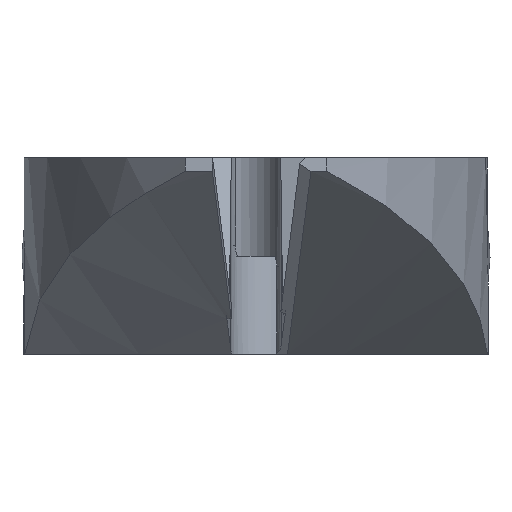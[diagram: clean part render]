
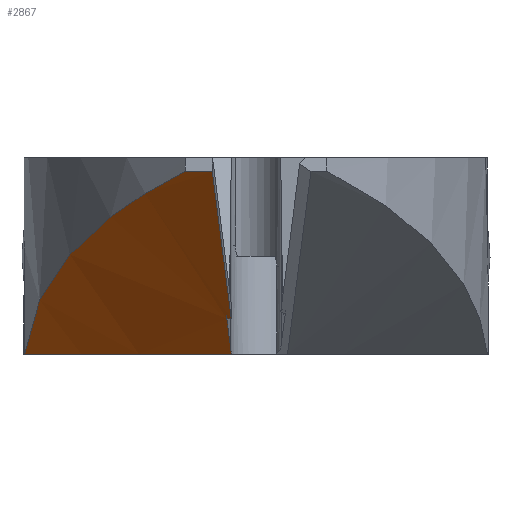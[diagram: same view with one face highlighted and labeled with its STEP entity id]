
A CAD part, left-side view. The second image highlights one B-rep face of the part: STEP entity #2867.
In plain terms, the highlighted cylindrical face has radius 75 mm (diameter 150 mm), a partial arc.
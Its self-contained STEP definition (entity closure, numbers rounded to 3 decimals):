
#2 = CARTESIAN_POINT ( 'NONE',  ( -12.055, 6.605, 0. ) ) ;
#16 = CARTESIAN_POINT ( 'NONE',  ( -15.309, 0.133, 1.622 ) ) ;
#127 = CARTESIAN_POINT ( 'NONE',  ( -12.5, 0.182, 0. ) ) ;
#131 = EDGE_CURVE ( 'NONE', #3823, #1383, #4644, .T. ) ;
#148 = CARTESIAN_POINT ( 'NONE',  ( -12.69, 9.601, 0.822 ) ) ;
#168 = ORIENTED_EDGE ( 'NONE', *, *, #1207, .T. ) ;
#170 = CARTESIAN_POINT ( 'NONE',  ( -11.216, 9.792, 0. ) ) ;
#177 = EDGE_CURVE ( 'NONE', #2996, #3823, #2653, .T. ) ;
#393 = B_SPLINE_CURVE_WITH_KNOTS ( 'NONE', 3,
 ( #170, #148, #3077, #4657, #2445, #2726, #3462, #3171, #3155, #4638 ),
 .UNSPECIFIED., .F., .F.,
 ( 4, 2, 2, 2, 4 ),
 ( 0., 0.005, 0.01, 0.015, 0.02 ),
 .UNSPECIFIED. ) ;
#402 = CARTESIAN_POINT ( 'NONE',  ( -15.309, 0.2, 1.622 ) ) ;
#661 = ORIENTED_EDGE ( 'NONE', *, *, #177, .T. ) ;
#683 = ORIENTED_EDGE ( 'NONE', *, *, #702, .F. ) ;
#702 = EDGE_CURVE ( 'NONE', #3372, #4685, #4104, .T. ) ;
#770 = CARTESIAN_POINT ( 'NONE',  ( -15.309, 0., 1.622 ) ) ;
#931 = EDGE_CURVE ( 'NONE', #2794, #2734, #393, .T. ) ;
#969 = DIRECTION ( 'NONE',  ( -0.866, 0., 0.5 ) ) ;
#984 = CARTESIAN_POINT ( 'NONE',  ( -12.598, 0.194, 0.057 ) ) ;
#1113 = CARTESIAN_POINT ( 'NONE',  ( -27., 0.416, 8.372 ) ) ;
#1187 = CYLINDRICAL_SURFACE ( 'NONE', #2423, 75. ) ;
#1203 = CARTESIAN_POINT ( 'NONE',  ( -15.309, 0.2, 1.622 ) ) ;
#1207 = EDGE_CURVE ( 'NONE', #1383, #2734, #3075, .T. ) ;
#1282 = VECTOR ( 'NONE', #969, 1000. ) ;
#1383 = VERTEX_POINT ( 'NONE', #1545 ) ;
#1495 = CARTESIAN_POINT ( 'NONE',  ( -19.271, 0., 3.909 ) ) ;
#1545 = CARTESIAN_POINT ( 'NONE',  ( -27., 0., 8.372 ) ) ;
#1709 = CARTESIAN_POINT ( 'NONE',  ( -19.271, 0.2, 3.91 ) ) ;
#1803 = DIRECTION ( 'NONE',  ( -0.5, 0., -0.866 ) ) ;
#1853 = CARTESIAN_POINT ( 'NONE',  ( -12.5, 0.182, 0. ) ) ;
#2037 = CARTESIAN_POINT ( 'NONE',  ( -12.795, 0.2, 0.171 ) ) ;
#2160 =( BOUNDED_CURVE ( )  B_SPLINE_CURVE ( 3, ( #1853, #4071, #2, #2593 ),
 .UNSPECIFIED., .F., .T. ) 
 B_SPLINE_CURVE_WITH_KNOTS ( ( 4, 4 ),
 ( 3.144, 3.273 ),
 .UNSPECIFIED. ) 
 CURVE ( )  GEOMETRIC_REPRESENTATION_ITEM ( )  RATIONAL_B_SPLINE_CURVE ( ( 1., 0.999, 0.999, 1. ) ) 
 REPRESENTATION_ITEM ( '' )  );
#2163 = ORIENTED_EDGE ( 'NONE', *, *, #931, .F. ) ;
#2240 = CARTESIAN_POINT ( 'NONE',  ( -15.309, 0.067, 1.622 ) ) ;
#2290 = EDGE_LOOP ( 'NONE', ( #4460, #661, #3909, #168, #2163, #3554, #683 ) ) ;
#2423 = AXIS2_PLACEMENT_3D ( 'NONE', #2547, #3641, #1803 ) ;
#2445 = CARTESIAN_POINT ( 'NONE',  ( -18.386, 7.793, 3.863 ) ) ;
#2547 = CARTESIAN_POINT ( 'NONE',  ( 10.402, 0., 73.38 ) ) ;
#2593 = CARTESIAN_POINT ( 'NONE',  ( -11.216, 9.792, 0. ) ) ;
#2594 = DIRECTION ( 'NONE',  ( -0.866, 0., 0.5 ) ) ;
#2633 = VECTOR ( 'NONE', #2594, 1000. ) ;
#2653 =( BOUNDED_CURVE ( )  B_SPLINE_CURVE ( 3, ( #402, #16, #2240, #770 ),
 .UNSPECIFIED., .F., .T. ) 
 B_SPLINE_CURVE_WITH_KNOTS ( ( 4, 4 ),
 ( 6.281, 6.283 ),
 .UNSPECIFIED. ) 
 CURVE ( )  GEOMETRIC_REPRESENTATION_ITEM ( )  RATIONAL_B_SPLINE_CURVE ( ( 1., 1., 1., 1. ) ) 
 REPRESENTATION_ITEM ( '' )  );
#2726 = CARTESIAN_POINT ( 'NONE',  ( -21.113, 6.341, 5.279 ) ) ;
#2734 = VERTEX_POINT ( 'NONE', #3350 ) ;
#2769 = CARTESIAN_POINT ( 'NONE',  ( -27., 1.248, 8.384 ) ) ;
#2794 = VERTEX_POINT ( 'NONE', #4128 ) ;
#2797 = CARTESIAN_POINT ( 'NONE',  ( -12.696, 0.2, 0.114 ) ) ;
#2819 = CARTESIAN_POINT ( 'NONE',  ( -27., 0., 8.372 ) ) ;
#2867 = ADVANCED_FACE ( 'NONE', ( #3242 ), #1187, .T. ) ;
#2931 = CARTESIAN_POINT ( 'NONE',  ( -27., 0.832, 8.376 ) ) ;
#2964 = CARTESIAN_POINT ( 'NONE',  ( -12.5, 0.182, 0. ) ) ;
#2996 = VERTEX_POINT ( 'NONE', #1203 ) ;
#3075 = B_SPLINE_CURVE_WITH_KNOTS ( 'NONE', 3,
 ( #2819, #1113, #2931, #2769 ),
 .UNSPECIFIED., .F., .F.,
 ( 4, 4 ),
 ( 0., 1. ),
 .UNSPECIFIED. ) ;
#3077 = CARTESIAN_POINT ( 'NONE',  ( -14.141, 9.28, 1.611 ) ) ;
#3129 = CARTESIAN_POINT ( 'NONE',  ( -12.795, 0.2, 0.171 ) ) ;
#3155 = CARTESIAN_POINT ( 'NONE',  ( -25.96, 2.465, 7.806 ) ) ;
#3156 = CARTESIAN_POINT ( 'NONE',  ( -15.309, 0., 1.622 ) ) ;
#3171 = CARTESIAN_POINT ( 'NONE',  ( -24.828, 3.553, 7.208 ) ) ;
#3242 = FACE_OUTER_BOUND ( 'NONE', #2290, .T. ) ;
#3350 = CARTESIAN_POINT ( 'NONE',  ( -27., 1.248, 8.384 ) ) ;
#3372 = VERTEX_POINT ( 'NONE', #2037 ) ;
#3462 = CARTESIAN_POINT ( 'NONE',  ( -22.406, 5.491, 5.944 ) ) ;
#3554 = ORIENTED_EDGE ( 'NONE', *, *, #4662, .F. ) ;
#3641 = DIRECTION ( 'NONE',  ( 0.866, 0., -0.5 ) ) ;
#3823 = VERTEX_POINT ( 'NONE', #3156 ) ;
#3879 = EDGE_CURVE ( 'NONE', #3372, #2996, #4105, .T. ) ;
#3909 = ORIENTED_EDGE ( 'NONE', *, *, #131, .T. ) ;
#4071 = CARTESIAN_POINT ( 'NONE',  ( -12.484, 3.397, 0. ) ) ;
#4104 = B_SPLINE_CURVE_WITH_KNOTS ( 'NONE', 3,
 ( #3129, #2797, #984, #127 ),
 .UNSPECIFIED., .F., .F.,
 ( 4, 4 ),
 ( 0., 0. ),
 .UNSPECIFIED. ) ;
#4105 = LINE ( 'NONE', #1709, #1282 ) ;
#4128 = CARTESIAN_POINT ( 'NONE',  ( -11.216, 9.792, 0. ) ) ;
#4460 = ORIENTED_EDGE ( 'NONE', *, *, #3879, .T. ) ;
#4638 = CARTESIAN_POINT ( 'NONE',  ( -27., 1.248, 8.384 ) ) ;
#4644 = LINE ( 'NONE', #1495, #2633 ) ;
#4657 = CARTESIAN_POINT ( 'NONE',  ( -16.989, 8.376, 3.132 ) ) ;
#4662 = EDGE_CURVE ( 'NONE', #4685, #2794, #2160, .T. ) ;
#4685 = VERTEX_POINT ( 'NONE', #2964 ) ;
